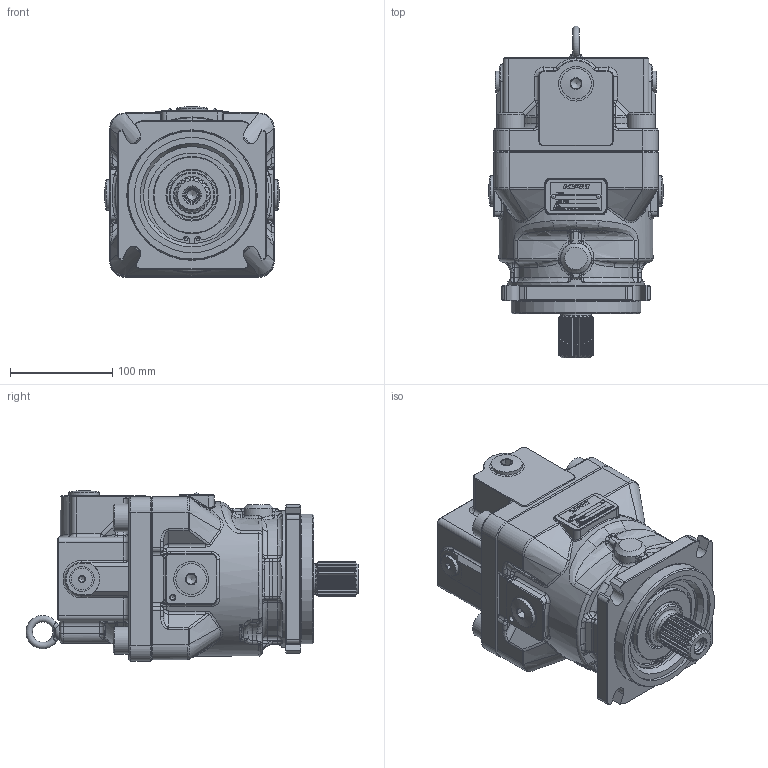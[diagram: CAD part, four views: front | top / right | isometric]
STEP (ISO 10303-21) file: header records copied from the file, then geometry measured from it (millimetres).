
FILE_DESCRIPTION(/* description */ (''),/* implementation_level */ '2;1');
FILE_NAME(/* name */ 'O:\80_個人\10_入業者\林\\X2\63D051FA30C730FC30BF\X0\\2020年度\2020.10.16-M7X85,112\X2\591689B3\X0\-第二回\M7X85AA44.stp',/* time_stamp */ '2020-10-05T16:53:52+09:00',/* author */ ('PG14415'),/* organization */ (''),/* preprocessor_version */ 'ST-DEVELOPER v16.5',/* originating_system */ 'Autodesk Inventor 2017',/* authorisation */ '');
FILE_SCHEMA (('AUTOMOTIVE_DESIGN { 1 0 10303 214 3 1 1 }'));
Products named in the file (1): Part9
Bounding box: 171 x 325.25 x 167 mm (x, y, z)
Volume: 4620245.4 mm3; surface area: 243704.3 mm2
Topology: 1 solids, 11 shells, 1862 faces, 4642 edges, 2867 vertices
Faces by surface type: plane 903, cylinder 376, bspline 312, cone 134, torus 102, sphere 35
Full cylindrical faces by diameter (mm): 2.13 x2, 2.2 x4, 2.5 x2, 3 x1, 5 x2, 6 x3, 6.8 x1, 8 x2, 10.106 x9, 12 x9, 14 x1, 18 x4, 20 x4, 21 x2, 24 x2, 25 x2, 27 x4, 29 x4, 30 x4, 34 x3, 45 x1, 49 x1, 74 x1, 75.5 x1, 95 x2, 98.5 x1, 113 x1, 127 x1, 134 x1, 151 x1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
Entity records: 63367 total; most frequent: CARTESIAN_POINT 19341, ORIENTED_EDGE 8806, DIRECTION 8312, EDGE_CURVE 4403, AXIS2_PLACEMENT_3D 2952, VERTEX_POINT 2797, LINE 2408, VECTOR 2408
